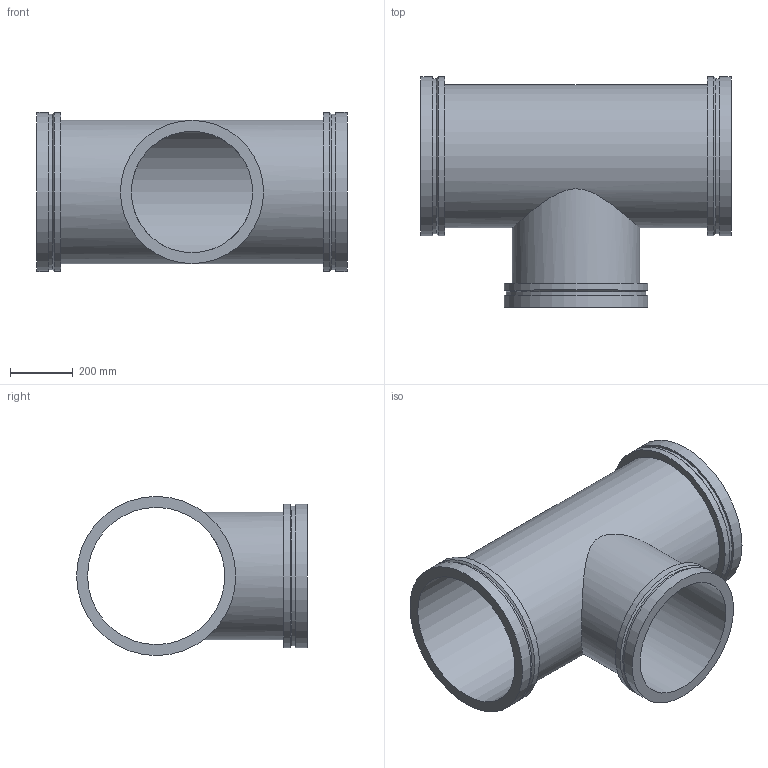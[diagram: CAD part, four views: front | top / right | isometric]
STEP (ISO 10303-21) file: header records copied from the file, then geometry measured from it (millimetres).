
FILE_DESCRIPTION(/* description */ ('VIC REDUCING TEE No W025 VR','CAx-IF Rec.Pracs.---Representation and Presentation of Product Manufacturing Information (PMI)---4.0---2014-10-13'),/* implementation_level */ '2;1');
FILE_NAME(/* name */ 'C:\Users\kkamble\AppData\Roaming\Autodesk\ApplicationPlugins\Back Up\Victaulic_Vic-Ring_Tee Reducing_No W25 VR (AGR)\Victaulic_Vic-Ring_Tee Reducing_No W25 VR (AGR)_18.0x16.0 (450x400).stp',/* time_stamp */ '2020-09-10T11:52:45+05:00',/* author */ ('mchristi'),/* organization */ ('Victaulic'),/* preprocessor_version */ 'ST-DEVELOPER v17.2',/* originating_system */ 'Autodesk Inventor 2019',/* authorisation */ '');
FILE_SCHEMA (('AP242_MANAGED_MODEL_BASED_3D_ENGINEERING_MIM_LF { 1 0 10303 442 1 1 4 }'));
Length unit declared in the file: inch
Products named in the file (1): W25 VR-18.0x16.0
Bounding box: 990.6 x 736.6 x 508 mm (x, y, z)
Volume: 23718756 mm3; surface area: 3621286.3 mm2
Topology: 1 solids, 1 shells, 25 faces, 68 edges, 52 vertices
Faces by surface type: cylinder 13, plane 9, cone 3
Full cylindrical faces by diameter (mm): 387.35 x1, 406.4 x1, 438.15 x1, 444.5 x1, 457.2 x3, 495.3 x2, 508 x4
Entity records: 1243 total; most frequent: CARTESIAN_POINT 399, DIRECTION 190, ORIENTED_EDGE 136, AXIS2_PLACEMENT_3D 87, EDGE_CURVE 68, VERTEX_POINT 52, CIRCLE 48, EDGE_LOOP 36
